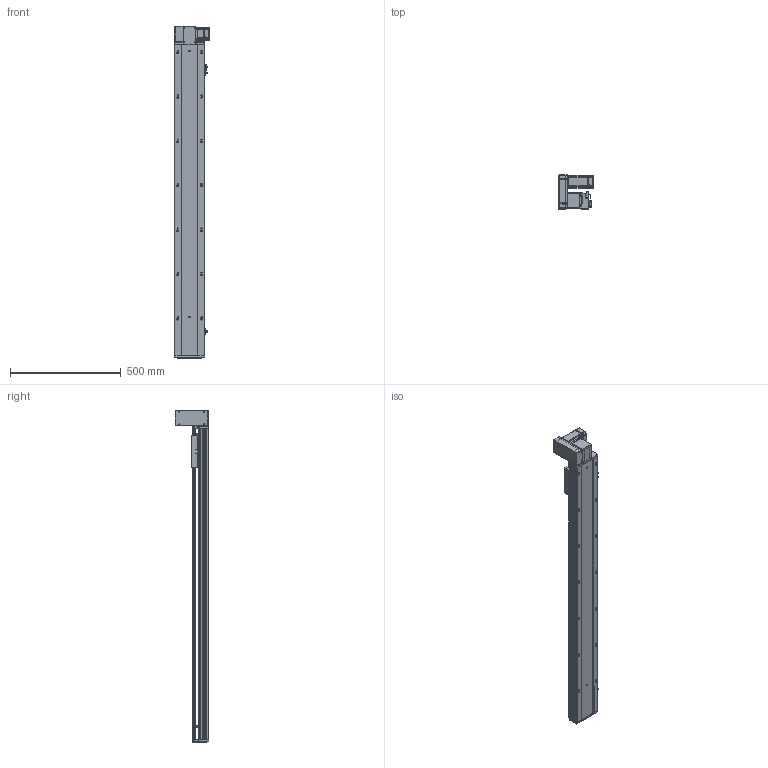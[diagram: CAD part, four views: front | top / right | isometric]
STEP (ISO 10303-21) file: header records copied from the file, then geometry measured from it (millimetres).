
FILE_DESCRIPTION (( 'STEP AP203' ), '1' );
FILE_NAME ('RY140-T-300-UL.SLDASM_1150.step', '2021-03-01T07:44:03', ( '盈信电脑' ), ( '东莞市道滘镇水果街19号' ), 'SwSTEP 2.0', 'SolidWorks 2012', '' );
FILE_SCHEMA (( 'CONFIG_CONTROL_DESIGN' ));
Length unit declared in the file: millimetre
Products named in the file (18): RY140-T翋肮謫裔啣; 滅袉蝶18-10; RY140-T-300-UL.SLDASM_1150; RY120-T主同步轮轴承压盖; RY140-T萇儂欶; RY120-T蹟翐M4; RY140-T萇儂假蚾啣; RY140-T翋肮祭謫盓傅釱; 15; 侂狟400W侜督萇儂; 覜茼ん672; RY120-T肮祭湍揤踡輸2; RY120外置感应片(140共用）; RY120-T肮祭湍揤踡輸1; RY140綴裔啣; RY140-T-300-DL倰第奻裔啣_1150; RY140肮祭謫臏賑輸; RY140-T-300-DL倰第菁釱_1150
Assembly tree (23 placements, depth 3):
  RY140-T-300-UL.SLDASM_1150
    RY140-T-300-DL倰第菁釱_1150
    RY140肮祭謫臏賑輸
    RY140-T-300-DL倰第奻裔啣_1150
    RY140綴裔啣
    覜茼ん672  x3
    RY120外置感应片(140共用）
    RY120-T肮祭湍揤踡輸2
    RY120-T肮祭湍揤踡輸1
    RY140-T翋肮祭謫盓傅釱
    RY140-T萇儂假蚾啣
    侂狟400W侜督萇儂
      15
    RY120-T主同步轮轴承压盖
    RY120-T蹟翐M4  x4
    RY140-T萇儂欶
    滅袉蝶18-10  x2
    RY140-T翋肮謫裔啣
Bounding box: 157 x 152.5 x 1496 mm (x, y, z)
Volume: 4357332.4 mm3; surface area: 1670574.3 mm2
Topology: 22 solids, 22 shells, 2687 faces, 7337 edges, 4698 vertices
Faces by surface type: plane 1381, cylinder 976, cone 230, bspline 100
Entity records: 84687 total; most frequent: CARTESIAN_POINT 20579, ORIENTED_EDGE 13138, DIRECTION 12537, EDGE_CURVE 6569, VERTEX_POINT 4297, LINE 4217, VECTOR 4217, AXIS2_PLACEMENT_3D 4160
